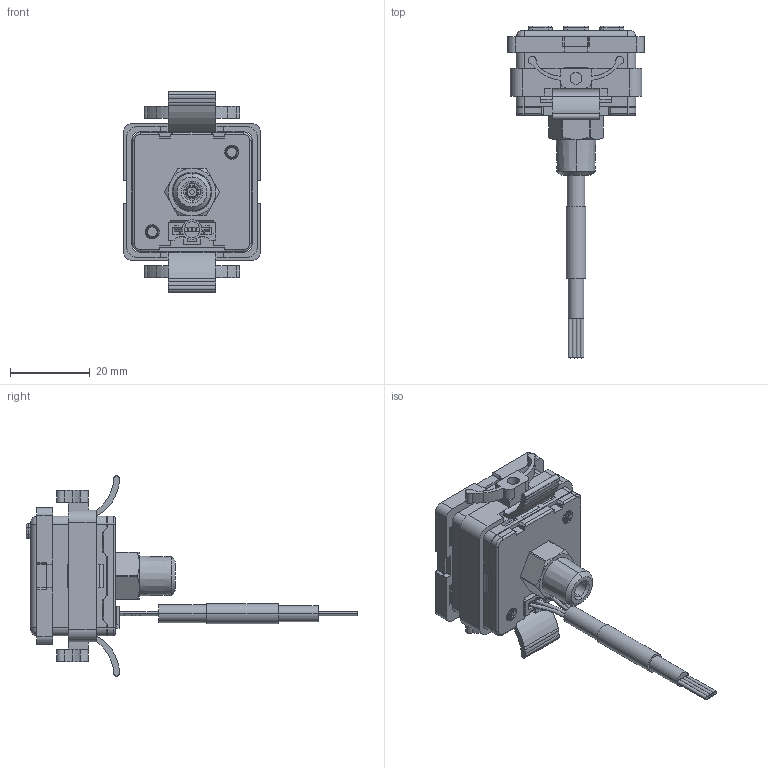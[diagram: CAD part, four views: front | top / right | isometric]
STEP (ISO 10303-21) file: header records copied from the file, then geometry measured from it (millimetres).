
FILE_DESCRIPTION((''),'2;1');
FILE_NAME('KP47_PA-C','2019-07-08T',('Stark'),(''),'CREO PARAMETRIC BY PTC INC, 2014500','CREO PARAMETRIC BY PTC INC, 2014500','');
FILE_SCHEMA(('CONFIG_CONTROL_DESIGN'));
Length unit declared in the file: millimetre
Products named in the file (1): KP47_PA-C
Bounding box: 34.4 x 83.35 x 50.4 mm (x, y, z)
Volume: 23672.5 mm3; surface area: 12116.3 mm2
Topology: 2 solids, 2 shells, 986 faces, 2558 edges, 1598 vertices
Faces by surface type: plane 727, cylinder 189, bspline 33, torus 19, cone 18
Entity records: 36766 total; most frequent: CARTESIAN_POINT 12818, ORIENTED_EDGE 5116, DIRECTION 4658, EDGE_CURVE 2558, VECTOR 2052, LINE 2052, VERTEX_POINT 1598, AXIS2_PLACEMENT_3D 1303
